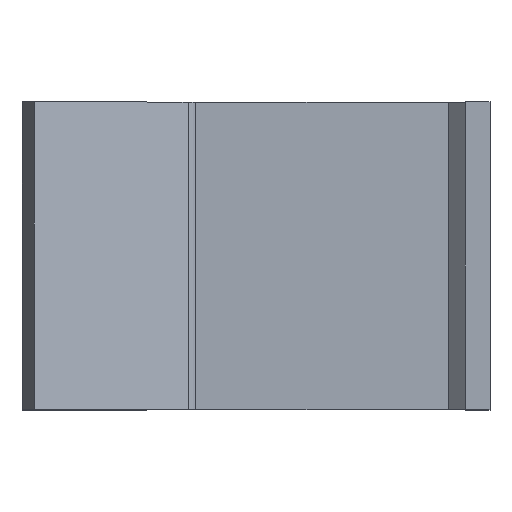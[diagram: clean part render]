
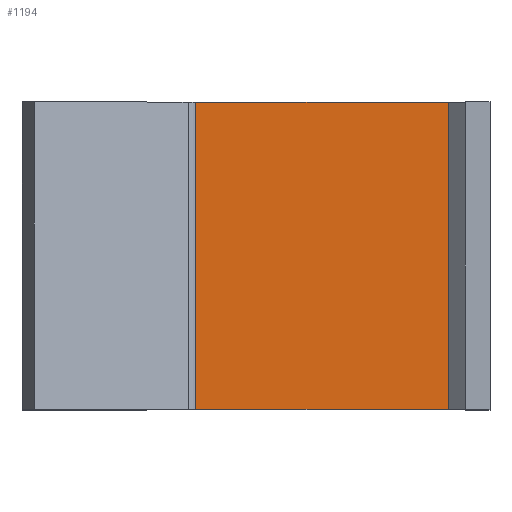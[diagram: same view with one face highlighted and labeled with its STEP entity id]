
A CAD part, top view. The second image highlights one B-rep face of the part: STEP entity #1194.
In plain terms, the highlighted planar face has unit normal (0, 0, 1).
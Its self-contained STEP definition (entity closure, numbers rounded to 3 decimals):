
#124=FACE_OUTER_BOUND('',#200,.T.);
#200=EDGE_LOOP('',(#923,#924,#925,#926));
#311=LINE('',#1850,#451);
#315=LINE('',#1857,#455);
#316=LINE('',#1860,#456);
#317=LINE('',#1861,#457);
#451=VECTOR('',#1500,100.);
#455=VECTOR('',#1506,87.769);
#456=VECTOR('',#1509,100.);
#457=VECTOR('',#1510,87.769);
#566=VERTEX_POINT('',#1834);
#569=VERTEX_POINT('',#1841);
#572=VERTEX_POINT('',#1855);
#573=VERTEX_POINT('',#1859);
#693=EDGE_CURVE('',#566,#569,#311,.T.);
#697=EDGE_CURVE('',#572,#569,#315,.T.);
#698=EDGE_CURVE('',#573,#572,#316,.T.);
#699=EDGE_CURVE('',#566,#573,#317,.T.);
#923=ORIENTED_EDGE('',*,*,#693,.T.);
#924=ORIENTED_EDGE('',*,*,#697,.F.);
#925=ORIENTED_EDGE('',*,*,#698,.F.);
#926=ORIENTED_EDGE('',*,*,#699,.F.);
#1124=PLANE('',#1285);
#1194=ADVANCED_FACE('',(#124),#1124,.T.);
#1285=AXIS2_PLACEMENT_3D('',#1858,#1507,#1508);
#1500=DIRECTION('',(0.,-1.,0.));
#1506=DIRECTION('',(-1.,0.,0.));
#1507=DIRECTION('center_axis',(0.,0.,1.));
#1508=DIRECTION('ref_axis',(1.,0.,0.));
#1509=DIRECTION('',(0.,-1.,0.));
#1510=DIRECTION('',(1.,0.,0.));
#1834=CARTESIAN_POINT('',(-87.769,100.,8.));
#1841=CARTESIAN_POINT('',(-87.769,0.,8.));
#1850=CARTESIAN_POINT('',(-87.769,25.,8.));
#1855=CARTESIAN_POINT('',(0.,0.,8.));
#1857=CARTESIAN_POINT('',(0.,0.,8.));
#1858=CARTESIAN_POINT('Origin',(-75.,50.,8.));
#1859=CARTESIAN_POINT('',(0.,100.,8.));
#1860=CARTESIAN_POINT('',(0.,100.,8.));
#1861=CARTESIAN_POINT('',(-150.,100.,8.));
